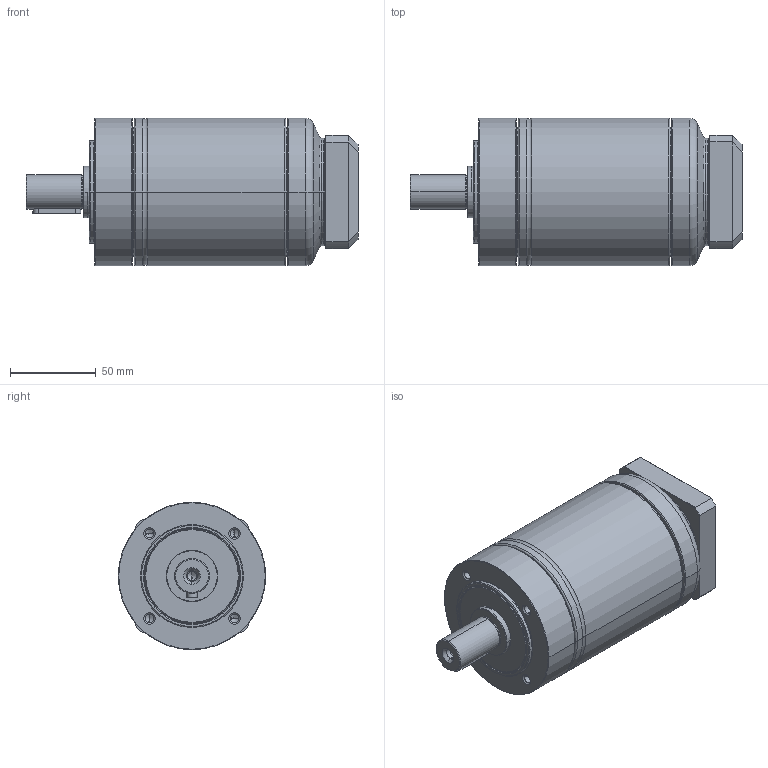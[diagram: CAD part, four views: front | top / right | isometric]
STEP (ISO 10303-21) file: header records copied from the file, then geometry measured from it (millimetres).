
FILE_DESCRIPTION((''),'2;1');
FILE_NAME('PG2-080_3ST_14-P0411300101_ASM','2016-04-15T',('d01943'),(''),'PRO/ENGINEER BY PARAMETRIC TECHNOLOGY CORPORATION, 2008410','PRO/ENGINEER BY PARAMETRIC TECHNOLOGY CORPORATION, 2008410','');
FILE_SCHEMA(('CONFIG_CONTROL_DESIGN'));
Length unit declared in the file: millimetre
Products named in the file (9): P1325310001; P0273300001; P1324300001; P0350301103; P0411300101; P0503300005; P0941300001; P1702300001; PG2-080_3ST_14-P0411300101_ASM
Assembly tree (8 placements, depth 2):
  PG2-080_3ST_14-P0411300101_ASM
    P1325310001
    P0273300001
    P1324300001
    P0350301103
    P0411300101
    P0503300005
    P0941300001
    P1702300001
Bounding box: 193.5 x 86 x 86 mm (x, y, z)
Volume: 556312.5 mm3; surface area: 132649.1 mm2
Topology: 8 solids, 9 shells, 475 faces, 1048 edges, 603 vertices
Faces by surface type: cone 142, cylinder 139, torus 98, plane 80, bspline 16
Entity records: 17513 total; most frequent: CARTESIAN_POINT 6813, DIRECTION 2439, ORIENTED_EDGE 2028, AXIS2_PLACEMENT_3D 1046, EDGE_CURVE 1014, VERTEX_POINT 603, CIRCLE 570, EDGE_LOOP 539
